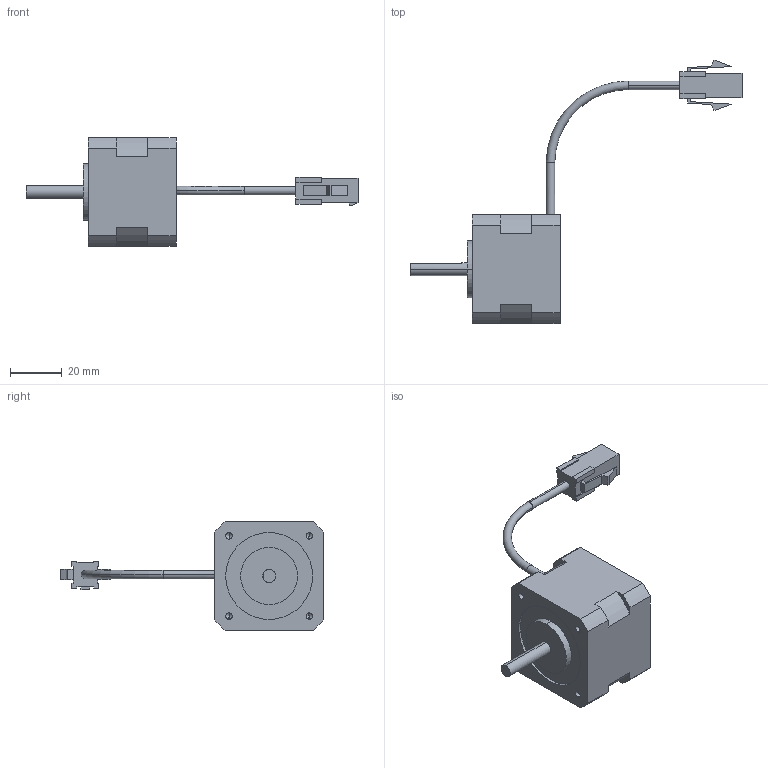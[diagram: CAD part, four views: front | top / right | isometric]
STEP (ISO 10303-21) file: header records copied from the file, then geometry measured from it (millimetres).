
FILE_DESCRIPTION (( 'STEP AP203' ), '1' );
FILE_NAME ('P21-MO-042-01-R00.STEP', '2015-06-30T07:49:16', ( '' ), ( '' ), 'SwSTEP 2.0', 'SolidWorks 2013', '' );
FILE_SCHEMA (( 'CONFIG_CONTROL_DESIGN' ));
Length unit declared in the file: millimetre
Products named in the file (3): M21-MO-042-01-R00_湀_; Power_Cable_ル遽; P21-MO-042-01-R00
Assembly tree (2 placements, depth 2):
  P21-MO-042-01-R00
    M21-MO-042-01-R00_湀_
    Power_Cable_ル遽
Bounding box: 128.28 x 101.61 x 42 mm (x, y, z)
Volume: 61100 mm3; surface area: 13705.4 mm2
Topology: 2 solids, 2 shells, 240 faces, 616 edges, 402 vertices
Faces by surface type: plane 160, cylinder 70, cone 8, torus 2
Entity records: 7505 total; most frequent: CARTESIAN_POINT 1255, DIRECTION 1246, ORIENTED_EDGE 1216, EDGE_CURVE 608, VECTOR 460, LINE 460, VERTEX_POINT 402, AXIS2_PLACEMENT_3D 393
